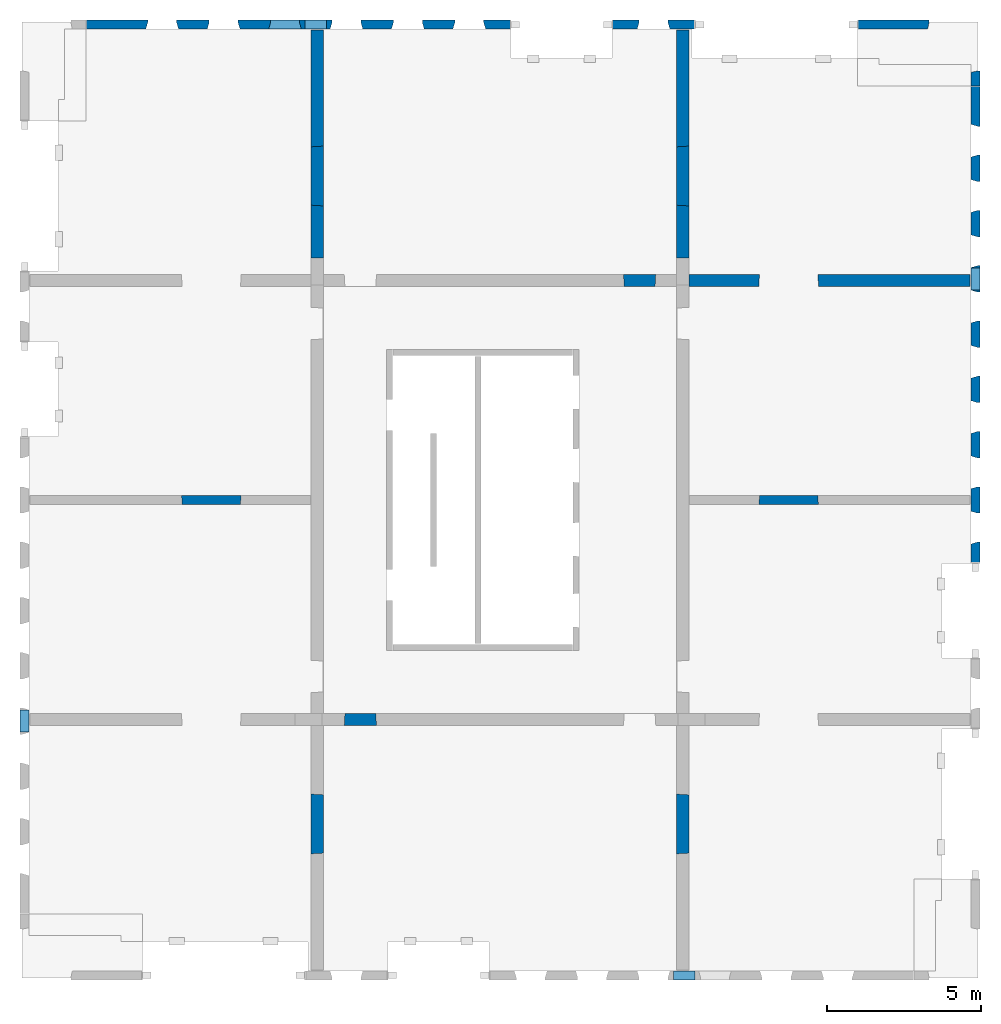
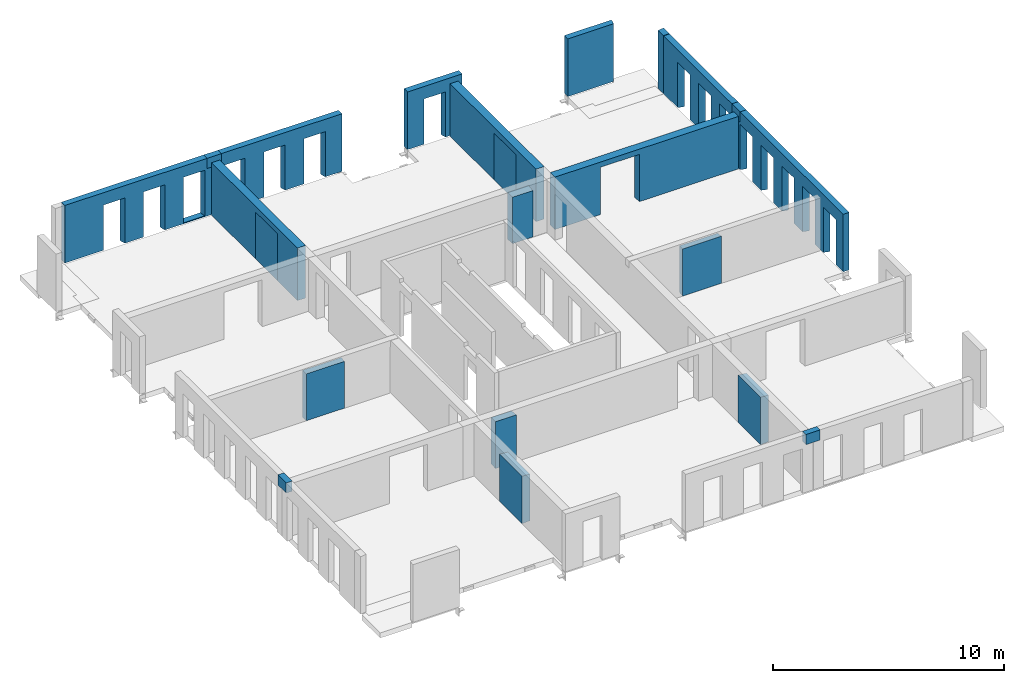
# One storey, part 4 of 4: 22 walls, 24 openings.
"""IFC2X3 building model written with IfcOpenShell, lengths in millimetres."""

import ifcopenshell
import ifcopenshell.guid

model = None  # the IFC model being written
_history = None  # IfcOwnerHistory: only IFC2X3 demands one
_inside = {}  # id of a spatial element -> (the spatial element, [elements in it])
_under = {}  # id of a project, library or spatial element -> (it, [spatial elements below it])
_declared = {}  # id of a project -> (the project, [libraries it declares])
_typed = {}  # id of a type object -> (the type object, [elements of that type])
_made_of = {}  # id of a material, layer set ... -> (it, [elements and type objects made of it])


def new_model(schema):
    """Start an empty IFC model of exactly this schema.

    Asked for "IFC4X3", IfcOpenShell would pick the latest addendum, in which some entities
    have other attributes; the version numbers below select the first issue.
    IFC2X3 requires an IfcOwnerHistory on every rooted entity: one is made here for all.
    """
    global model, _history
    if schema == "IFC4X3":
        model = ifcopenshell.file(schema_version=(4, 3, 0, 0))
    else:
        model = ifcopenshell.file(schema=schema)
    _inside.clear()
    _under.clear()
    _declared.clear()
    _typed.clear()
    _made_of.clear()
    _history = None
    if model.schema == "IFC2X3":
        org = make("IfcOrganization", Name="unknown")
        user = make(
            "IfcPersonAndOrganization",
            ThePerson=make("IfcPerson", FamilyName="unknown"),
            TheOrganization=org,
        )
        app = make(
            "IfcApplication",
            ApplicationDeveloper=org,
            Version="unknown",
            ApplicationFullName="unknown",
            ApplicationIdentifier="unknown",
        )
        _history = make(
            "IfcOwnerHistory",
            OwningUser=user,
            OwningApplication=app,
            ChangeAction="ADDED",
            CreationDate=0,
        )
    return model


def make(cls, **values):
    """One entity of the class cls with the attributes given. An attribute that is None is left unset."""
    return model.create_entity(
        cls, **{name: value for name, value in values.items() if value is not None}
    )


def entity(cls, *values):
    """Any entity or typed value of the class cls, its attributes in the order of the schema. None: left unset."""
    e = model.create_entity(cls)
    for i, value in enumerate(values):
        if value is not None:
            e[i] = value
    return e


def rooted(cls, **values):
    """An entity with a GlobalId (a new one), such as an element, a storey or a relation."""
    return make(cls, GlobalId=ifcopenshell.guid.new(), OwnerHistory=_history, **values)


def si_unit(unit_type, name, prefix=None):
    """IfcSIUnit, for example si_unit("LENGTHUNIT", "METRE", prefix="MILLI")."""
    return make("IfcSIUnit", UnitType=unit_type, Prefix=prefix, Name=name)


def converted_unit(unit_type, name, factor, base, dimensions=None, offset=None):
    """IfcConversionBasedUnit, such as the inch: factor (a typed value) times the base unit."""
    return make(
        "IfcConversionBasedUnit"
        if offset is None
        else "IfcConversionBasedUnitWithOffset",
        ConversionOffset=offset,
        Dimensions=None
        if dimensions is None
        else entity("IfcDimensionalExponents", *dimensions),
        UnitType=unit_type,
        Name=name,
        ConversionFactor=make(
            "IfcMeasureWithUnit", ValueComponent=factor, UnitComponent=base
        ),
    )


def derived_unit(unit_type, elements):
    """IfcDerivedUnit: a product of units, each with its exponent."""
    return make(
        "IfcDerivedUnit",
        Elements=[
            make("IfcDerivedUnitElement", Unit=unit, Exponent=power)
            for unit, power in elements
        ],
        UnitType=unit_type,
    )


def assignment(units):
    """IfcUnitAssignment: the units of a project."""
    return None if units is None else make("IfcUnitAssignment", Units=units)


def point(xyz):
    """IfcCartesianPoint."""
    return None if xyz is None else make("IfcCartesianPoint", Coordinates=xyz)


def direction(xyz):
    """IfcDirection."""
    return None if xyz is None else make("IfcDirection", DirectionRatios=xyz)


def frame(location, z_axis=None, x_axis=None):
    """IfcAxis2Placement3D, a coordinate frame: its origin and axes. An axis left out is left unset."""
    return make(
        "IfcAxis2Placement3D",
        Location=point(location),
        Axis=direction(z_axis),
        RefDirection=direction(x_axis),
    )


def frame_2d(location, x_axis=None):
    """IfcAxis2Placement2D, a coordinate frame in the plane: its origin and x axis."""
    return make(
        "IfcAxis2Placement2D", Location=point(location), RefDirection=direction(x_axis)
    )


def origin():
    """The frame at (0, 0, 0) with its axes left unset."""
    return frame((0.0, 0.0, 0.0))


def place(relative_to, where):
    """IfcLocalPlacement: puts the frame where relative to a parent placement (None: the world)."""
    return make(
        "IfcLocalPlacement", PlacementRelTo=relative_to, RelativePlacement=where
    )


def context(
    kind, dimensions, precision=None, world=None, true_north=None, identifier=None
):
    """IfcGeometricRepresentationContext, for example the 3D "Model" context."""
    return make(
        "IfcGeometricRepresentationContext",
        ContextIdentifier=identifier,
        ContextType=kind,
        CoordinateSpaceDimension=dimensions,
        Precision=precision,
        WorldCoordinateSystem=world,
        TrueNorth=true_north,
    )


def subcontext(parent, identifier, kind, view, scale=None):
    """IfcGeometricRepresentationSubContext, for example "Body" below "Model"."""
    return make(
        "IfcGeometricRepresentationSubContext",
        ContextIdentifier=identifier,
        ContextType=kind,
        ParentContext=parent,
        TargetScale=scale,
        TargetView=view,
    )


def project(units=None, contexts=None):
    """IfcProject with its units and contexts."""
    return rooted(
        "IfcProject",
        Name="project",
        RepresentationContexts=contexts,
        UnitsInContext=assignment(units),
    )


def spatial(cls, under=None, at=None, **own):
    """A site, building, storey or space (cls), placed at a placement, below another one or the project."""
    s = rooted(cls, ObjectPlacement=at, **own)
    if under is not None:
        _under.setdefault(under.id(), (under, []))[1].append(s)
    return s


def profile(cls, at=None, kind="AREA", **sizes):
    """A parametric profile (cls). Its sizes go by their IFC names, for example OverallWidth=200.0."""
    return make(cls, ProfileType=kind, Position=at, **sizes)


def rectangle(**sizes):
    """IfcRectangleProfileDef."""
    return profile("IfcRectangleProfileDef", **sizes)


def extrude(swept, where, along, depth):
    """IfcExtrudedAreaSolid: the profile swept, set in the frame where, extruded along a direction by depth."""
    return make(
        "IfcExtrudedAreaSolid",
        SweptArea=swept,
        Position=where,
        ExtrudedDirection=direction(along),
        Depth=depth,
    )


def faces_of(points, faces, orient=None, outer=None):
    """IfcFace entities. A face is a list of loops; a loop is a list of indices into points, from 0.

    orient and outer hold one flag for each loop. By default every Orientation is true, the
    first loop of a face is its IfcFaceOuterBound and the others are IfcFaceBound.
    """
    made = []
    for i, loops in enumerate(faces):
        bounds = []
        for j, loop in enumerate(loops):
            is_outer = j == 0 if outer is None else outer[i][j]
            bounds.append(
                make(
                    "IfcFaceOuterBound" if is_outer else "IfcFaceBound",
                    Bound=make("IfcPolyLoop", Polygon=[points[k] for k in loop]),
                    Orientation=True if orient is None else orient[i][j],
                )
            )
        made.append(make("IfcFace", Bounds=bounds))
    return made


def faceted_brep(points, faces, orient=None, outer=None, voids=None):
    """IfcFacetedBrep: a solid bounded by flat faces; with voids (closed shells), ...WithVoids."""
    shared = [point(p) for p in points]
    hull = make("IfcClosedShell", CfsFaces=faces_of(shared, faces, orient, outer))
    if voids is None:
        return make("IfcFacetedBrep", Outer=hull)
    return make(
        "IfcFacetedBrepWithVoids",
        Outer=hull,
        Voids=[
            make(cls, CfsFaces=faces_of(shared, fs, o, b)) for cls, fs, o, b in voids
        ],
    )


def shape(context_of_items, identifier, shape_type, items):
    """IfcShapeRepresentation: the items that make up one representation, for example the "Body"."""
    return make(
        "IfcShapeRepresentation",
        ContextOfItems=context_of_items,
        RepresentationIdentifier=identifier,
        RepresentationType=shape_type,
        Items=items,
    )


def material(Name=None, Category=None):
    """IfcMaterial."""
    return make("IfcMaterial", Name=Name, Category=Category)


def layer(
    of_material, thickness, ventilated=None, Name=None, Category=None, Priority=None
):
    """IfcMaterialLayer: one layer of a wall or slab, of a material (None: an air gap)."""
    return make(
        "IfcMaterialLayer",
        Material=of_material,
        LayerThickness=thickness,
        IsVentilated=ventilated,
        Name=Name,
        Category=Category,
        Priority=Priority,
    )


def layer_set(layers, Name=None):
    """IfcMaterialLayerSet."""
    return make("IfcMaterialLayerSet", MaterialLayers=layers, LayerSetName=Name)


def layer_usage(for_layer_set, set_direction, sense, offset, extent=None):
    """IfcMaterialLayerSetUsage: how a layer set lies in its element."""
    return make(
        "IfcMaterialLayerSetUsage",
        ForLayerSet=for_layer_set,
        LayerSetDirection=set_direction,
        DirectionSense=sense,
        OffsetFromReferenceLine=offset,
        ReferenceExtent=extent,
    )


def made_of(thing, what):
    """Note that an element or type object is made of a material, layer set ...; save() writes the relation."""
    if what is not None:
        _made_of.setdefault(what.id(), (what, []))[1].append(thing)
    return thing


def type_object(cls, material=None, **own):
    """A type object (cls), such as IfcWallType, which elements share."""
    return made_of(rooted(cls, **own), material)


def element(
    cls,
    number,
    at=None,
    inside=None,
    cuts=None,
    type_object=None,
    material=None,
    context=None,
    identifier="Body",
    shape_type=None,
    held_by="IfcProductDefinitionShape",
    body=None,
    shapes=None,
    **own,
):
    """One element of the class cls, such as IfcWall. Its Tag is "e" and its number.

    at: its placement. inside: the storey or other place that contains it. cuts: it is an
    opening in that element (IfcRelVoidsElement). A single representation is given by context,
    identifier, shape_type and body (its items); several are given by shapes. held_by: the class
    of the entity that holds the representations. save() writes the other relations.
    """
    e = rooted(cls, Tag="e%d" % number, ObjectPlacement=at, **own)
    if body is not None:
        shapes = [shape(context, identifier, shape_type, body)]
    if shapes is not None:
        e.Representation = make(held_by, Representations=shapes)
    if inside is not None:
        _inside.setdefault(inside.id(), (inside, []))[1].append(e)
    if cuts is not None:
        rooted(
            "IfcRelVoidsElement", RelatingBuildingElement=cuts, RelatedOpeningElement=e
        )
    if type_object is not None:
        _typed.setdefault(type_object.id(), (type_object, []))[1].append(e)
    return made_of(e, material)


def aggregate(whole, parts):
    """IfcRelAggregates: a whole, such as a stair, and the parts it consists of."""
    return rooted("IfcRelAggregates", RelatingObject=whole, RelatedObjects=parts)


def save(model, path):
    """Write the relations noted so far, then the file.

    IfcRelAggregates (storeys below a building ...), IfcRelContainedInSpatialStructure (elements
    in a storey), IfcRelDefinesByType, IfcRelAssociatesMaterial and IfcRelDeclares: one each for
    every whole, place, type object, material and project.
    """
    for whole, parts in _under.values():
        aggregate(whole, parts)
    for where, things in _inside.values():
        rooted(
            "IfcRelContainedInSpatialStructure",
            RelatedElements=things,
            RelatingStructure=where,
        )
    for kind, things in _typed.values():
        rooted("IfcRelDefinesByType", RelatedObjects=things, RelatingType=kind)
    for what, things in _made_of.values():
        rooted("IfcRelAssociatesMaterial", RelatedObjects=things, RelatingMaterial=what)
    for by, libraries in _declared.values():
        rooted("IfcRelDeclares", RelatingContext=by, RelatedDefinitions=libraries)
    model.write(path)


model = new_model("IFC2X3")

# Units and contexts
model_context = context("Model", 3, precision=0.01, world=origin(), true_north=direction((6.12303176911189e-17, 1.0)))
body_context = subcontext(model_context, "Body", "Model", "MODEL_VIEW")
ifc_project = project(units=[si_unit("LENGTHUNIT", "METRE", prefix="MILLI"), si_unit("AREAUNIT", "SQUARE_METRE"), si_unit("VOLUMEUNIT", "CUBIC_METRE"), converted_unit("PLANEANGLEUNIT", "DEGREE", entity("IfcRatioMeasure", 0.0174532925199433), si_unit("PLANEANGLEUNIT", "RADIAN"), dimensions=[0, 0, 0, 0, 0, 0, 0]), si_unit("MASSUNIT", "GRAM", prefix="KILO"), derived_unit("MASSDENSITYUNIT", [(si_unit("MASSUNIT", "GRAM", prefix="KILO"), 1), (si_unit("LENGTHUNIT", "METRE"), -3)]), si_unit("TIMEUNIT", "SECOND"), si_unit("FREQUENCYUNIT", "HERTZ"), si_unit("THERMODYNAMICTEMPERATUREUNIT", "DEGREE_CELSIUS"), derived_unit("THERMALTRANSMITTANCEUNIT", [(si_unit("MASSUNIT", "GRAM", prefix="KILO"), 1), (si_unit("THERMODYNAMICTEMPERATUREUNIT", "KELVIN"), -1), (si_unit("TIMEUNIT", "SECOND"), -3)]), derived_unit("VOLUMETRICFLOWRATEUNIT", [(si_unit("LENGTHUNIT", "METRE"), 3), (si_unit("TIMEUNIT", "SECOND"), -1)]), si_unit("ELECTRICCURRENTUNIT", "AMPERE"), si_unit("ELECTRICVOLTAGEUNIT", "VOLT"), si_unit("POWERUNIT", "WATT"), si_unit("FORCEUNIT", "NEWTON", prefix="KILO"), si_unit("ILLUMINANCEUNIT", "LUX"), si_unit("LUMINOUSFLUXUNIT", "LUMEN"), si_unit("LUMINOUSINTENSITYUNIT", "CANDELA"), derived_unit("USERDEFINED", [(si_unit("MASSUNIT", "GRAM", prefix="KILO"), -1), (si_unit("LENGTHUNIT", "METRE"), -2), (si_unit("TIMEUNIT", "SECOND"), 3), (si_unit("LUMINOUSFLUXUNIT", "LUMEN"), 1)]), derived_unit("LINEARVELOCITYUNIT", [(si_unit("LENGTHUNIT", "METRE"), 1), (si_unit("TIMEUNIT", "SECOND"), -1)]), si_unit("PRESSUREUNIT", "PASCAL"), derived_unit("USERDEFINED", [(si_unit("LENGTHUNIT", "METRE"), -2), (si_unit("MASSUNIT", "GRAM", prefix="KILO"), 1), (si_unit("TIMEUNIT", "SECOND"), -2)])], contexts=[model_context])

# Site, building, storey
site_placement = place(None, origin())
site = spatial("IfcSite", under=ifc_project, at=site_placement, Name="Default", CompositionType="ELEMENT")
building_placement = place(site_placement, origin())
building = spatial("IfcBuilding", under=site, at=building_placement, Name="niet gebruiken", CompositionType="ELEMENT")
storey_placement = place(building_placement, frame((0.0, 0.0, 66960.0)))
storey = spatial("IfcBuildingStorey", under=building, at=storey_placement, Name="21 eenentwintigste verdieping", CompositionType="ELEMENT", Elevation=66960.0000000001)

# Walls
ifc_material_1 = material(Name="NLRS_f2_beton ihwg")
ifc_layer_1 = layer(ifc_material_1, 300.0)
ifc_layer_set_1 = layer_set([ifc_layer_1], Name="Basic Wall:NLRS_21.21_WA_beton ihwg d=300_gen")
ifc_layer_usage_1 = layer_usage(ifc_layer_set_1, "AXIS2", "NEGATIVE", 150.0)
wall_type_1 = type_object("IfcWallType", Name="Basic Wall:NLRS_21.21_WA_beton ihwg d=300_gen", PredefinedType="STANDARD", material=ifc_layer_set_1)
wall_1_placement = place(storey_placement, frame((148105.0, 2020.0, 2455.0), z_axis=(0.0, 0.0, 1.0), x_axis=(-1.0, 0.0, 0.0)))
element("IfcWallStandardCase", 1, at=wall_1_placement, inside=storey, type_object=wall_type_1, material=ifc_layer_usage_1, Name="Basic Wall:NLRS_21.21_WA_beton ihwg d=300_gen", ObjectType="Basic Wall:NLRS_21.21_WA_beton ihwg d=300_gen", context=body_context, shape_type="SweptSolid", body=[
    extrude(rectangle(XDim=710.000000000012, YDim=300.0, at=frame_2d((355.000000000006, -1.4210854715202e-14), x_axis=(-1.0, 0.0))), origin(), (0.0, 0.0, 1.0), 535.0),
])
ifc_layer_usage_2 = layer_usage(ifc_layer_set_1, "AXIS2", "NEGATIVE", 150.0)
wall_2_placement = place(storey_placement, frame((135395.0, 32980.0, 2455.0)))
element("IfcWallStandardCase", 2, at=wall_2_placement, inside=storey, type_object=wall_type_1, material=ifc_layer_usage_2, Name="Basic Wall:NLRS_21.21_WA_beton ihwg d=300_gen", ObjectType="Basic Wall:NLRS_21.21_WA_beton ihwg d=300_gen", context=body_context, shape_type="SweptSolid", body=[
    extrude(rectangle(XDim=710.000000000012, YDim=300.000000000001, at=frame_2d((355.000000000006, 0.0), x_axis=(-1.0, 0.0))), origin(), (0.0, 0.0, 1.0), 535.0),
])
ifc_layer_usage_3 = layer_usage(ifc_layer_set_1, "AXIS2", "NEGATIVE", 150.0)
wall_3_placement = place(storey_placement, frame((157230.0, 25055.0, 2455.0), z_axis=(0.0, 0.0, 1.0), x_axis=(0.0, -1.0, 0.0)))
element("IfcWallStandardCase", 3, at=wall_3_placement, inside=storey, type_object=wall_type_1, material=ifc_layer_usage_3, Name="Basic Wall:NLRS_21.21_WA_beton ihwg d=300_gen", ObjectType="Basic Wall:NLRS_21.21_WA_beton ihwg d=300_gen", context=body_context, shape_type="SweptSolid", body=[
    extrude(rectangle(XDim=710.000000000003, YDim=300.000000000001, at=frame_2d((355.000000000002, 9.9475983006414e-13), x_axis=(-1.0, 0.0))), origin(), (0.0, 0.0, 1.0), 535.0),
])
ifc_layer_usage_4 = layer_usage(ifc_layer_set_1, "AXIS2", "NEGATIVE", 150.0)
wall_4_placement = place(storey_placement, frame((126270.0, 9945.0, 2455.0), z_axis=(0.0, 0.0, 1.0), x_axis=(0.0, 1.0, 0.0)))
element("IfcWallStandardCase", 4, at=wall_4_placement, inside=storey, type_object=wall_type_1, material=ifc_layer_usage_4, Name="Basic Wall:NLRS_21.21_WA_beton ihwg d=300_gen", ObjectType="Basic Wall:NLRS_21.21_WA_beton ihwg d=300_gen", context=body_context, shape_type="SweptSolid", body=[
    extrude(rectangle(XDim=710.000000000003, YDim=300.000000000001, at=frame_2d((355.000000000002, 0.0), x_axis=(-1.0, 0.0))), origin(), (0.0, 0.0, 1.0), 535.0),
])

# Wall, opening
ifc_material_2 = material(Name="NLRS_f2_beton prefab")
ifc_layer_2 = layer(ifc_material_2, 400.0)
ifc_layer_set_2 = layer_set([ifc_layer_2], Name="Basic Wall:NLRS_22.21_WA_beton prefab d=400_gen")
ifc_layer_usage_5 = layer_usage(ifc_layer_set_2, "AXIS2", "NEGATIVE", 200.0)
wall_type_2 = type_object("IfcWallType", Name="Basic Wall:NLRS_22.21_WA_beton prefab d=400_gen", PredefinedType="STANDARD", material=ifc_layer_set_2)
wall_5_placement = place(storey_placement, frame((157060.0, 24650.0, -70.0), z_axis=(0.0, 0.0, 1.0), x_axis=(-1.0, 0.0, 0.0)))
wall_5 = element("IfcWallStandardCase", 5, at=wall_5_placement, inside=storey, type_object=wall_type_2, material=ifc_layer_usage_5, Name="Basic Wall:NLRS_22.21_WA_beton prefab d=400_gen", ObjectType="Basic Wall:NLRS_22.21_WA_beton prefab d=400_gen", context=body_context, shape_type="SweptSolid", body=[
    extrude(rectangle(XDim=9160.00000000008, YDim=399.999999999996, at=frame_2d((4580.00000000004, -9.2370555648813e-13), x_axis=(-1.0, 0.0))), origin(), (0.0, 0.0, 1.0), 2770.00000000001),
])
opening_1_placement = place(wall_5_placement, frame((6884.0, 200.0, 0.0)))
element("IfcOpeningElement", 6, at=opening_1_placement, cuts=wall_5, Name="Basic Wall:NLRS_22.21_WA_beton prefab d=400_gen", ObjectType="Opening", context=body_context, shape_type="Brep", body=[
    faceted_brep([(-24.0, -400.0, 2470.0), (-1924.0, -400.0, 2470.0), (-1924.0, -400.0, 0.0), (-24.0, -400.0, 0.0), (0.0, 0.0, 2494.0), (0.0, 0.0, 0.0), (-1948.0, 0.0, 0.0), (-1948.0, 0.0, 2494.0)], [[[0, 1, 2, 3]], [[4, 5, 6, 7]], [[4, 7, 1, 0]], [[7, 6, 2, 1]], [[6, 5, 3, 2]], [[5, 4, 0, 3]]]),
])

ifc_layer_usage_6 = layer_usage(ifc_layer_set_2, "AXIS2", "NEGATIVE", 200.0)
wall_6_placement = place(storey_placement, frame((135800.0, 25380.0, -70.0), z_axis=(0.0, 0.0, 1.0), x_axis=(0.0, 1.0, 0.0)))
wall_6 = element("IfcWallStandardCase", 7, at=wall_6_placement, inside=storey, type_object=wall_type_2, material=ifc_layer_usage_6, Name="Basic Wall:NLRS_22.21_WA_beton prefab d=400_gen", ObjectType="Basic Wall:NLRS_22.21_WA_beton prefab d=400_gen", context=body_context, shape_type="SweptSolid", body=[
    extrude(rectangle(XDim=7430.00000000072, YDim=400.000000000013, at=frame_2d((3715.00000000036, -5.62749846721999e-12), x_axis=(-1.0, 0.0))), origin(), (0.0, 0.0, 1.0), 2770.00000000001),
])
opening_2_placement = place(wall_6_placement, frame((1696.0, 200.0, 0.0)))
element("IfcOpeningElement", 8, at=opening_2_placement, cuts=wall_6, Name="Basic Wall:NLRS_22.21_WA_beton prefab d=400_gen", ObjectType="Opening", context=body_context, shape_type="Brep", body=[
    faceted_brep([(1924.0, 0.0, 2470.0), (1924.0, 0.0, 0.0), (24.0, 0.0, 0.0), (24.0, 0.0, 2470.0), (1948.0, -400.0, 2494.0), (0.0, -400.0, 2494.0), (0.0, -400.0, 0.0), (1948.0, -400.0, 0.0)], [[[0, 1, 2, 3]], [[4, 5, 6, 7]], [[4, 0, 3, 5]], [[5, 3, 2, 6]], [[6, 2, 1, 7]], [[7, 1, 0, 4]]]),
])

ifc_layer_usage_7 = layer_usage(ifc_layer_set_2, "AXIS2", "NEGATIVE", 200.0)
wall_7_placement = place(storey_placement, frame((147700.0, 25380.0, -70.0), z_axis=(0.0, 0.0, 1.0), x_axis=(0.0, 1.0, 0.0)))
wall_7 = element("IfcWallStandardCase", 9, at=wall_7_placement, inside=storey, type_object=wall_type_2, material=ifc_layer_usage_7, Name="Basic Wall:NLRS_22.21_WA_beton prefab d=400_gen", ObjectType="Basic Wall:NLRS_22.21_WA_beton prefab d=400_gen", context=body_context, shape_type="SweptSolid", body=[
    extrude(rectangle(XDim=7429.99999999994, YDim=400.000000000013, at=frame_2d((3714.99999999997, 7.14805992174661e-12), x_axis=(-1.0, 0.0))), origin(), (0.0, 0.0, 1.0), 2770.00000000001),
])
opening_3_placement = place(wall_7_placement, frame((1696.0, 200.0, 0.0)))
element("IfcOpeningElement", 10, at=opening_3_placement, cuts=wall_7, Name="Basic Wall:NLRS_22.21_WA_beton prefab d=400_gen", ObjectType="Opening", context=body_context, shape_type="Brep", body=[
    faceted_brep([(1924.0, 0.0, 2470.0), (1924.0, 0.0, 0.0), (24.0, 0.0, 0.0), (24.0, 0.0, 2470.0), (1948.0, -400.0, 2494.0), (0.0, -400.0, 2494.0), (0.0, -400.0, 0.0), (1948.0, -400.0, 0.0)], [[[0, 1, 2, 3]], [[4, 5, 6, 7]], [[4, 0, 3, 5]], [[5, 3, 2, 6]], [[6, 2, 1, 7]], [[7, 1, 0, 4]]]),
])

ifc_layer_3 = layer(ifc_material_2, 300.0)
ifc_layer_set_3 = layer_set([ifc_layer_3], Name="Basic Wall:NLRS_21.21_WA_beton prefab d=300/320_gen")
ifc_layer_usage_8 = layer_usage(ifc_layer_set_3, "AXIS2", "NEGATIVE", 150.0)
wall_type_3 = type_object("IfcWallType", Name="Basic Wall:NLRS_21.21_WA_beton prefab d=300/320_gen", PredefinedType="STANDARD", material=ifc_layer_set_3)
wall_8_placement = place(storey_placement, frame((145390.0, 32980.0, -50.0)))
wall_8 = element("IfcWallStandardCase", 11, at=wall_8_placement, inside=storey, type_object=wall_type_3, material=ifc_layer_usage_8, Name="Basic Wall:NLRS_21.21_WA_beton prefab d=300/320_gen", ObjectType="Basic Wall:NLRS_21.21_WA_beton prefab d=300/320_gen", context=body_context, shape_type="SweptSolid", body=[
    extrude(rectangle(XDim=2720.00000000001, YDim=300.000000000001, at=frame_2d((1360.0, -4.54747350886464e-13), x_axis=(-1.0, 0.0))), origin(), (0.0, 0.0, 1.0), 3040.0),
])
opening_4_placement = place(wall_8_placement, frame((825.0, -150.0, -20.0)))
element("IfcOpeningElement", 12, at=opening_4_placement, cuts=wall_8, Name="Basic Wall:NLRS_21.21_WA_beton prefab d=300/320_gen", ObjectType="Opening", context=body_context, shape_type="Brep", body=[
    faceted_brep([(0.0, 0.0, 2405.0), (0.0, 0.0, 0.0), (1070.0, 0.0, 0.0), (1070.0, 0.0, 2405.0), (1005.0, 219.0, 2370.0), (65.0, 219.0, 2370.0), (1005.0, 219.0, 0.0), (65.0, 219.0, 0.0), (65.0, 300.0, 0.0), (1005.0, 300.0, 0.0), (65.0, 300.0, 2370.0), (1005.0, 300.0, 2370.0)], [[[0, 1, 2, 3]], [[3, 4, 5, 0]], [[2, 6, 4, 3]], [[1, 7, 8, 9, 6, 2]], [[0, 5, 7, 1]], [[10, 11, 9, 8]], [[10, 5, 4, 11]], [[11, 4, 6, 9]], [[8, 7, 5, 10]]]),
])

# Wall, openings
ifc_layer_usage_9 = layer_usage(ifc_layer_set_3, "AXIS2", "NEGATIVE", 150.0)
wall_9_placement = place(storey_placement, frame((128290.0, 32980.0, -50.0)))
wall_9 = element("IfcWallStandardCase", 13, at=wall_9_placement, inside=storey, type_object=wall_type_3, material=ifc_layer_usage_9, Name="Basic Wall:NLRS_21.21_WA_beton prefab d=300/320_gen", ObjectType="Basic Wall:NLRS_21.21_WA_beton prefab d=300/320_gen", context=body_context, shape_type="SweptSolid", body=[
    extrude(rectangle(XDim=7449.9999999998, YDim=300.000000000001, at=frame_2d((3724.9999999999, 0.0), x_axis=(-1.0, 0.0))), origin(), (0.0, 0.0, 1.0), 3040.0),
])
opening_5_placement = place(wall_9_placement, frame((3925.0, -150.0, -20.0)))
element("IfcOpeningElement", 14, at=opening_5_placement, cuts=wall_9, Name="Basic Wall:NLRS_21.21_WA_beton prefab d=300/320_gen", ObjectType="Opening", context=body_context, shape_type="Brep", body=[
    faceted_brep([(1070.0, 0.0, 2405.0), (0.0, 0.0, 2405.0), (0.0, 0.0, 0.0), (1070.0, 0.0, 0.0), (1005.0, 219.0, 2370.0), (65.0, 219.0, 2370.0), (65.0, 219.0, 0.0), (65.0, 300.0, 0.0), (1005.0, 300.0, 0.0), (1005.0, 219.0, 0.0), (1005.0, 300.0, 2370.0), (65.0, 300.0, 2370.0)], [[[0, 1, 2, 3]], [[1, 0, 4, 5]], [[2, 1, 5, 6]], [[3, 2, 6, 7, 8, 9]], [[0, 3, 9, 4]], [[10, 8, 7, 11]], [[10, 11, 5, 4]], [[11, 7, 6, 5]], [[8, 10, 4, 9]]]),
])
opening_6_placement = place(wall_9_placement, frame((1925.0, -150.0, -20.0)))
element("IfcOpeningElement", 15, at=opening_6_placement, cuts=wall_9, Name="Basic Wall:NLRS_21.21_WA_beton prefab d=300/320_gen", ObjectType="Opening", context=body_context, shape_type="Brep", body=[
    faceted_brep([(1070.0, 0.0, 2405.0), (0.0, 0.0, 2405.0), (0.0, 0.0, 0.0), (1070.0, 0.0, 0.0), (1005.0, 219.0, 2370.0), (65.0, 219.0, 2370.0), (65.0, 219.0, 0.0), (65.0, 300.0, 0.0), (1005.0, 300.0, 0.0), (1005.0, 219.0, 0.0), (1005.0, 300.0, 2370.0), (65.0, 300.0, 2370.0)], [[[0, 1, 2, 3]], [[1, 0, 4, 5]], [[2, 1, 5, 6]], [[3, 2, 6, 7, 8, 9]], [[0, 3, 9, 4]], [[10, 8, 7, 11]], [[10, 11, 5, 4]], [[11, 7, 6, 5]], [[8, 10, 4, 9]]]),
])
opening_7_placement = place(wall_9_placement, frame((5925.0, -150.0, 50.0)))
element("IfcOpeningElement", 16, at=opening_7_placement, cuts=wall_9, Name="Basic Wall:NLRS_21.21_WA_beton prefab d=300/320_gen", ObjectType="Opening", context=body_context, shape_type="Brep", body=[
    faceted_brep([(1070.0, 0.0, 2405.0), (0.0, 0.0, 2405.0), (0.0, 0.0, 0.0), (1070.0, 0.0, 0.0), (1005.0, 219.0, 2370.0), (65.0, 219.0, 2370.0), (65.0, 219.0, 0.0), (65.0, 300.0, 0.0), (1005.0, 300.0, 0.0), (1005.0, 219.0, 0.0), (1005.0, 300.0, 2370.0), (65.0, 300.0, 2370.0)], [[[0, 1, 2, 3]], [[1, 0, 4, 5]], [[2, 1, 5, 6]], [[3, 2, 6, 7, 8, 9]], [[0, 3, 9, 4]], [[10, 8, 7, 11]], [[10, 11, 5, 4]], [[11, 7, 6, 5]], [[8, 10, 4, 9]]]),
])
opening_8_placement = place(wall_9_placement, origin())
element("IfcOpeningElement", 17, at=opening_8_placement, cuts=wall_9, Name="Basic Wall:NLRS_21.21_WA_beton prefab d=300/320_gen", ObjectType="Opening", context=body_context, shape_type="SweptSolid", body=[
    extrude(rectangle(XDim=534.999999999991, YDim=344.999999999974, at=frame_2d((-4.32009983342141e-12, 0.0), x_axis=(1.0, 0.0))), frame((7277.49999999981, 150.0, 2772.50000000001), z_axis=(0.0, -1.0, 0.0), x_axis=(0.0, 0.0, 1.0)), (0.0, 0.0, 1.0), 300.0),
])

ifc_layer_usage_10 = layer_usage(ifc_layer_set_3, "AXIS2", "NEGATIVE", 150.0)
wall_10_placement = place(storey_placement, frame((157230.0, 30960.0, -50.0), z_axis=(0.0, 0.0, 1.0), x_axis=(0.0, -1.0, 0.0)))
wall_10 = element("IfcWallStandardCase", 18, at=wall_10_placement, inside=storey, type_object=wall_type_3, material=ifc_layer_usage_10, Name="Basic Wall:NLRS_21.21_WA_beton prefab d=300/320_gen", ObjectType="Basic Wall:NLRS_21.21_WA_beton prefab d=300/320_gen", context=body_context, shape_type="SweptSolid", body=[
    extrude(rectangle(XDim=6249.99999999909, YDim=300.000000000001, at=frame_2d((3124.99999999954, -8.61177795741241e-12), x_axis=(-1.0, 0.0))), origin(), (0.0, 0.0, 1.0), 3039.99999999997),
])
opening_9_placement = place(wall_10_placement, frame((2295.0, -150.0, -20.0)))
element("IfcOpeningElement", 19, at=opening_9_placement, cuts=wall_10, Name="Basic Wall:NLRS_21.21_WA_beton prefab d=300/320_gen", ObjectType="Opening", context=body_context, shape_type="Brep", body=[
    faceted_brep([(-1070.0, 0.0, 2405.0), (-1070.0, 0.0, 0.0), (0.0, 0.0, 0.0), (0.0, 0.0, 2405.0), (-65.0, 219.0, 2370.0), (-1005.0, 219.0, 2370.0), (-65.0, 219.0, 0.0), (-1005.0, 219.0, 0.0), (-1005.0, 300.0, 0.0), (-65.0, 300.0, 0.0), (-1005.0, 300.0, 2370.0), (-65.0, 300.0, 2370.0)], [[[0, 1, 2, 3]], [[3, 4, 5, 0]], [[2, 6, 4, 3]], [[1, 7, 8, 9, 6, 2]], [[0, 5, 7, 1]], [[10, 11, 9, 8]], [[10, 5, 4, 11]], [[11, 4, 6, 9]], [[8, 7, 5, 10]]]),
])
opening_10_placement = place(wall_10_placement, frame((4095.0, -150.0, -20.0)))
element("IfcOpeningElement", 20, at=opening_10_placement, cuts=wall_10, Name="Basic Wall:NLRS_21.21_WA_beton prefab d=300/320_gen", ObjectType="Opening", context=body_context, shape_type="Brep", body=[
    faceted_brep([(-1070.0, 0.0, 2405.0), (-1070.0, 0.0, 0.0), (0.0, 0.0, 0.0), (0.0, 0.0, 2405.0), (-65.0, 219.0, 2370.0), (-1005.0, 219.0, 2370.0), (-65.0, 219.0, 0.0), (-1005.0, 219.0, 0.0), (-1005.0, 300.0, 0.0), (-65.0, 300.0, 0.0), (-1005.0, 300.0, 2370.0), (-65.0, 300.0, 2370.0)], [[[0, 1, 2, 3]], [[3, 4, 5, 0]], [[2, 6, 4, 3]], [[1, 7, 8, 9, 6, 2]], [[0, 5, 7, 1]], [[10, 11, 9, 8]], [[10, 5, 4, 11]], [[11, 4, 6, 9]], [[8, 7, 5, 10]]]),
])
opening_11_placement = place(wall_10_placement, frame((5895.0, -150.0, -20.0)))
element("IfcOpeningElement", 21, at=opening_11_placement, cuts=wall_10, Name="Basic Wall:NLRS_21.21_WA_beton prefab d=300/320_gen", ObjectType="Opening", context=body_context, shape_type="Brep", body=[
    faceted_brep([(-1070.0, 0.0, 2405.0), (-1070.0, 0.0, 0.0), (0.0, 0.0, 0.0), (0.0, 0.0, 2405.0), (-65.0, 219.0, 2370.0), (-1005.0, 219.0, 2370.0), (-65.0, 219.0, 0.0), (-1005.0, 219.0, 0.0), (-1005.0, 300.0, 0.0), (-65.0, 300.0, 0.0), (-1005.0, 300.0, 2370.0), (-65.0, 300.0, 2370.0)], [[[0, 1, 2, 3]], [[3, 4, 5, 0]], [[2, 6, 4, 3]], [[1, 7, 8, 9, 6, 2]], [[0, 5, 7, 1]], [[10, 11, 9, 8]], [[10, 5, 4, 11]], [[11, 4, 6, 9]], [[8, 7, 5, 10]]]),
])
opening_12_placement = place(wall_10_placement, origin())
element("IfcOpeningElement", 22, at=opening_12_placement, cuts=wall_10, Name="Basic Wall:NLRS_21.21_WA_beton prefab d=300/320_gen", ObjectType="Opening", context=body_context, shape_type="SweptSolid", body=[
    extrude(rectangle(XDim=534.99999999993, YDim=344.999999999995, at=frame_2d((0.0, -2.17426077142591e-12), x_axis=(1.0, 0.0))), frame((6077.49999999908, 150.0, 2772.50000000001), z_axis=(0.0, -1.0, 0.0), x_axis=(0.0, 0.0, 1.0)), (0.0, 0.0, 1.0), 300.0),
])

# Wall, opening
ifc_layer_usage_11 = layer_usage(ifc_layer_set_3, "AXIS2", "NEGATIVE", 150.0)
wall_11_placement = place(storey_placement, frame((153390.0, 32980.0, -50.0)))
wall_11 = element("IfcWallStandardCase", 23, at=wall_11_placement, inside=storey, type_object=wall_type_3, material=ifc_layer_usage_11, Name="Basic Wall:NLRS_21.21_WA_beton prefab d=300/320_gen", ObjectType="Basic Wall:NLRS_21.21_WA_beton prefab d=300/320_gen", context=body_context, shape_type="SweptSolid", body=[
    extrude(rectangle(XDim=2330.00000000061, YDim=300.000000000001, at=frame_2d((1165.00000000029, -1.29318777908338e-12), x_axis=(-1.0, 0.0))), origin(), (0.0, 0.0, 1.0), 3040.0),
])
opening_13_placement = place(wall_11_placement, frame((2265.0, -250.0, 0.0)))
element("IfcOpeningElement", 24, at=opening_13_placement, cuts=wall_11, Name="Basic Wall:NLRS_21.21_WA_beton prefab d=300/320_gen", ObjectType="Opening", context=body_context, shape_type="Brep", body=[
    faceted_brep([(65.0, 0.0, 3040.0), (65.0, 319.0, 3040.0), (0.0, 0.0, 3040.0), (65.0, 0.0, 0.0), (0.0, 0.0, 0.0), (65.0, 319.0, 0.0)], [[[0, 1, 2]], [[3, 4, 5]], [[2, 4, 3, 0]], [[0, 3, 5, 1]], [[1, 5, 4, 2]]]),
])

ifc_layer_usage_12 = layer_usage(ifc_layer_set_3, "AXIS2", "NEGATIVE", 150.0)
wall_12_placement = place(storey_placement, frame((157230.0, 31470.0, -50.0), z_axis=(0.0, 0.0, 1.0), x_axis=(0.0, -1.0, 0.0)))
wall_12 = element("IfcWallStandardCase", 25, at=wall_12_placement, inside=storey, type_object=wall_type_3, material=ifc_layer_usage_12, Name="Basic Wall:NLRS_21.21_WA_beton prefab d=300/320_gen", ObjectType="Basic Wall:NLRS_21.21_WA_beton prefab d=300/320_gen", context=body_context, shape_type="SweptSolid", body=[
    extrude(rectangle(XDim=489.999999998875, YDim=300.000000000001, at=frame_2d((244.999999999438, -7.8159700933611e-13), x_axis=(-1.0, 0.0))), origin(), (0.0, 0.0, 1.0), 3040.0),
])
opening_14_placement = place(wall_12_placement, frame((65.0, -250.0, 0.0)))
element("IfcOpeningElement", 26, at=opening_14_placement, cuts=wall_12, Name="Basic Wall:NLRS_21.21_WA_beton prefab d=300/320_gen", ObjectType="Opening", context=body_context, shape_type="Brep", body=[
    faceted_brep([(-65.0, 0.0, 3040.0), (0.0, 0.0, 3040.0), (-65.0, 319.0, 3040.0), (-65.0, 0.0, 0.0), (-65.0, 319.0, 0.0), (0.0, 0.0, 0.0)], [[[0, 1, 2]], [[3, 4, 5]], [[1, 0, 3, 5]], [[0, 2, 4, 3]], [[2, 1, 5, 4]]]),
])

# Wall, openings
ifc_layer_usage_13 = layer_usage(ifc_layer_set_3, "AXIS2", "NEGATIVE", 150.0)
wall_13_placement = place(storey_placement, frame((157230.0, 24690.0, -50.0), z_axis=(0.0, 0.0, 1.0), x_axis=(0.0, -1.0, 0.0)))
wall_13 = element("IfcWallStandardCase", 27, at=wall_13_placement, inside=storey, type_object=wall_type_3, material=ifc_layer_usage_13, Name="Basic Wall:NLRS_21.21_WA_beton prefab d=300/320_gen", ObjectType="Basic Wall:NLRS_21.21_WA_beton prefab d=300/320_gen", context=body_context, shape_type="SweptSolid", body=[
    extrude(rectangle(XDim=9250.00000000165, YDim=300.000000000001, at=frame_2d((4625.00000000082, -4.43378667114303e-12), x_axis=(-1.0, 0.0))), origin(), (0.0, 0.0, 1.0), 3040.0),
])
opening_15_placement = place(wall_13_placement, frame((8625.0, -150.0, -20.0)))
element("IfcOpeningElement", 28, at=opening_15_placement, cuts=wall_13, Name="Basic Wall:NLRS_21.21_WA_beton prefab d=300/320_gen", ObjectType="Opening", context=body_context, shape_type="Brep", body=[
    faceted_brep([(-1070.0, 0.0, 2405.0), (-1070.0, 0.0, 0.0), (0.0, 0.0, 0.0), (0.0, 0.0, 2405.0), (-65.0, 219.0, 2370.0), (-1005.0, 219.0, 2370.0), (-65.0, 219.0, 0.0), (-1005.0, 219.0, 0.0), (-1005.0, 300.0, 0.0), (-65.0, 300.0, 0.0), (-1005.0, 300.0, 2370.0), (-65.0, 300.0, 2370.0)], [[[0, 1, 2, 3]], [[3, 4, 5, 0]], [[2, 6, 4, 3]], [[1, 7, 8, 9, 6, 2]], [[0, 5, 7, 1]], [[10, 11, 9, 8]], [[10, 5, 4, 11]], [[11, 4, 6, 9]], [[8, 7, 5, 10]]]),
])
opening_16_placement = place(wall_13_placement, frame((5025.0, -150.0, -20.0)))
element("IfcOpeningElement", 29, at=opening_16_placement, cuts=wall_13, Name="Basic Wall:NLRS_21.21_WA_beton prefab d=300/320_gen", ObjectType="Opening", context=body_context, shape_type="Brep", body=[
    faceted_brep([(-1070.0, 0.0, 2405.0), (-1070.0, 0.0, 0.0), (0.0, 0.0, 0.0), (0.0, 0.0, 2405.0), (-65.0, 219.0, 2370.0), (-1005.0, 219.0, 2370.0), (-65.0, 219.0, 0.0), (-1005.0, 219.0, 0.0), (-1005.0, 300.0, 0.0), (-65.0, 300.0, 0.0), (-1005.0, 300.0, 2370.0), (-65.0, 300.0, 2370.0)], [[[0, 1, 2, 3]], [[3, 4, 5, 0]], [[2, 6, 4, 3]], [[1, 7, 8, 9, 6, 2]], [[0, 5, 7, 1]], [[10, 11, 9, 8]], [[10, 5, 4, 11]], [[11, 4, 6, 9]], [[8, 7, 5, 10]]]),
])
opening_17_placement = place(wall_13_placement, frame((3225.0, -150.0, -20.0)))
element("IfcOpeningElement", 30, at=opening_17_placement, cuts=wall_13, Name="Basic Wall:NLRS_21.21_WA_beton prefab d=300/320_gen", ObjectType="Opening", context=body_context, shape_type="Brep", body=[
    faceted_brep([(-1070.0, 0.0, 2405.0), (-1070.0, 0.0, 0.0), (0.0, 0.0, 0.0), (0.0, 0.0, 2405.0), (-65.0, 219.0, 2370.0), (-1005.0, 219.0, 2370.0), (-65.0, 219.0, 0.0), (-1005.0, 219.0, 0.0), (-1005.0, 300.0, 0.0), (-65.0, 300.0, 0.0), (-1005.0, 300.0, 2370.0), (-65.0, 300.0, 2370.0)], [[[0, 1, 2, 3]], [[3, 4, 5, 0]], [[2, 6, 4, 3]], [[1, 7, 8, 9, 6, 2]], [[0, 5, 7, 1]], [[10, 11, 9, 8]], [[10, 5, 4, 11]], [[11, 4, 6, 9]], [[8, 7, 5, 10]]]),
])
opening_18_placement = place(wall_13_placement, frame((6825.0, -150.0, -20.0)))
element("IfcOpeningElement", 31, at=opening_18_placement, cuts=wall_13, Name="Basic Wall:NLRS_21.21_WA_beton prefab d=300/320_gen", ObjectType="Opening", context=body_context, shape_type="Brep", body=[
    faceted_brep([(-1070.0, 0.0, 2405.0), (-1070.0, 0.0, 0.0), (0.0, 0.0, 0.0), (0.0, 0.0, 2405.0), (-65.0, 219.0, 2370.0), (-1005.0, 219.0, 2370.0), (-65.0, 219.0, 0.0), (-1005.0, 219.0, 0.0), (-1005.0, 300.0, 0.0), (-65.0, 300.0, 0.0), (-1005.0, 300.0, 2370.0), (-65.0, 300.0, 2370.0)], [[[0, 1, 2, 3]], [[3, 4, 5, 0]], [[2, 6, 4, 3]], [[1, 7, 8, 9, 6, 2]], [[0, 5, 7, 1]], [[10, 11, 9, 8]], [[10, 5, 4, 11]], [[11, 4, 6, 9]], [[8, 7, 5, 10]]]),
])
opening_19_placement = place(wall_13_placement, frame((1425.0, -150.0, -20.0)))
element("IfcOpeningElement", 32, at=opening_19_placement, cuts=wall_13, Name="Basic Wall:NLRS_21.21_WA_beton prefab d=300/320_gen", ObjectType="Opening", context=body_context, shape_type="Brep", body=[
    faceted_brep([(0.0, 0.0, 2405.0), (-1070.0, 0.0, 2405.0), (-1070.0, 0.0, 0.0), (0.0, 0.0, 0.0), (-65.0, 219.0, 2370.0), (-1005.0, 219.0, 2370.0), (-1005.0, 219.0, 0.0), (-1005.0, 300.0, 0.0), (-65.0, 300.0, 0.0), (-65.0, 219.0, 0.0), (-65.0, 300.0, 2370.0), (-1005.0, 300.0, 2370.0)], [[[0, 1, 2, 3]], [[1, 0, 4, 5]], [[2, 1, 5, 6]], [[3, 2, 6, 7, 8, 9]], [[0, 3, 9, 4]], [[10, 8, 7, 11]], [[10, 11, 5, 4]], [[11, 7, 6, 5]], [[8, 10, 4, 9]]]),
])
opening_20_placement = place(wall_13_placement, origin())
element("IfcOpeningElement", 33, at=opening_20_placement, cuts=wall_13, Name="Basic Wall:NLRS_21.21_WA_beton prefab d=300/320_gen", ObjectType="Opening", context=body_context, shape_type="SweptSolid", body=[
    extrude(rectangle(XDim=534.999999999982, YDim=345.000000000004, at=frame_2d((-2.1600499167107e-12, 0.0), x_axis=(0.0, 1.0))), frame((172.5, 150.0, 2772.5), z_axis=(0.0, -1.0, 0.0), x_axis=(-1.0, 0.0, 0.0)), (0.0, 0.0, 1.0), 300.0),
])

ifc_layer_usage_14 = layer_usage(ifc_layer_set_3, "AXIS2", "NEGATIVE", 150.0)
wall_14_placement = place(storey_placement, frame((135760.0, 32980.0, -50.0)))
wall_14 = element("IfcWallStandardCase", 34, at=wall_14_placement, inside=storey, type_object=wall_type_3, material=ifc_layer_usage_14, Name="Basic Wall:NLRS_21.21_WA_beton prefab d=300/320_gen", ObjectType="Basic Wall:NLRS_21.21_WA_beton prefab d=300/320_gen", context=body_context, shape_type="SweptSolid", body=[
    extrude(rectangle(XDim=6350.00000000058, YDim=300.000000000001, at=frame_2d((3175.00000000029, 0.0), x_axis=(-1.0, 0.0))), origin(), (0.0, 0.0, 1.0), 3040.0),
])
opening_21_placement = place(wall_14_placement, frame((455.0, -150.0, -20.0)))
element("IfcOpeningElement", 35, at=opening_21_placement, cuts=wall_14, Name="Basic Wall:NLRS_21.21_WA_beton prefab d=300/320_gen", ObjectType="Opening", context=body_context, shape_type="Brep", body=[
    faceted_brep([(1070.0, 0.0, 2405.0), (0.0, 0.0, 2405.0), (0.0, 0.0, 0.0), (1070.0, 0.0, 0.0), (1005.0, 219.0, 2370.0), (65.0, 219.0, 2370.0), (65.0, 219.0, 0.0), (65.0, 300.0, 0.0), (1005.0, 300.0, 0.0), (1005.0, 219.0, 0.0), (1005.0, 300.0, 2370.0), (65.0, 300.0, 2370.0)], [[[0, 1, 2, 3]], [[1, 0, 4, 5]], [[2, 1, 5, 6]], [[3, 2, 6, 7, 8, 9]], [[0, 3, 9, 4]], [[10, 8, 7, 11]], [[10, 11, 5, 4]], [[11, 7, 6, 5]], [[8, 10, 4, 9]]]),
])
opening_22_placement = place(wall_14_placement, frame((2455.0, -150.0, -20.0)))
element("IfcOpeningElement", 36, at=opening_22_placement, cuts=wall_14, Name="Basic Wall:NLRS_21.21_WA_beton prefab d=300/320_gen", ObjectType="Opening", context=body_context, shape_type="Brep", body=[
    faceted_brep([(1070.0, 0.0, 2405.0), (0.0, 0.0, 2405.0), (0.0, 0.0, 0.0), (1070.0, 0.0, 0.0), (1005.0, 219.0, 2370.0), (65.0, 219.0, 2370.0), (65.0, 219.0, 0.0), (65.0, 300.0, 0.0), (1005.0, 300.0, 0.0), (1005.0, 219.0, 0.0), (1005.0, 300.0, 2370.0), (65.0, 300.0, 2370.0)], [[[0, 1, 2, 3]], [[1, 0, 4, 5]], [[2, 1, 5, 6]], [[3, 2, 6, 7, 8, 9]], [[0, 3, 9, 4]], [[10, 8, 7, 11]], [[10, 11, 5, 4]], [[11, 7, 6, 5]], [[8, 10, 4, 9]]]),
])
opening_23_placement = place(wall_14_placement, frame((4455.0, -150.0, -20.0)))
element("IfcOpeningElement", 37, at=opening_23_placement, cuts=wall_14, Name="Basic Wall:NLRS_21.21_WA_beton prefab d=300/320_gen", ObjectType="Opening", context=body_context, shape_type="Brep", body=[
    faceted_brep([(1070.0, 0.0, 2405.0), (0.0, 0.0, 2405.0), (0.0, 0.0, 0.0), (1070.0, 0.0, 0.0), (1005.0, 219.0, 2370.0), (65.0, 219.0, 2370.0), (65.0, 219.0, 0.0), (65.0, 300.0, 0.0), (1005.0, 300.0, 0.0), (1005.0, 219.0, 0.0), (1005.0, 300.0, 2370.0), (65.0, 300.0, 2370.0)], [[[0, 1, 2, 3]], [[1, 0, 4, 5]], [[2, 1, 5, 6]], [[3, 2, 6, 7, 8, 9]], [[0, 3, 9, 4]], [[10, 8, 7, 11]], [[10, 11, 5, 4]], [[11, 7, 6, 5]], [[8, 10, 4, 9]]]),
])
opening_24_placement = place(wall_14_placement, origin())
element("IfcOpeningElement", 38, at=opening_24_placement, cuts=wall_14, Name="Basic Wall:NLRS_21.21_WA_beton prefab d=300/320_gen", ObjectType="Opening", context=body_context, shape_type="SweptSolid", body=[
    extrude(rectangle(XDim=534.999999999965, YDim=345.000000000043, at=frame_2d((0.0, 0.0), x_axis=(0.0, 1.0))), frame((172.500000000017, 150.0, 2772.50000000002), z_axis=(0.0, -1.0, 0.0), x_axis=(-1.0, 0.0, 0.0)), (0.0, 0.0, 1.0), 300.0),
])

# Walls
ifc_material_3 = material(Name="NLRS_f2_beton prefab dichtstorten")
wall_type_4 = type_object("IfcWallType", Name="Parametric Wall:NLRS_22.21_WA_beton prefab d=500 1900x2470_gen", PredefinedType="NOTDEFINED", material=ifc_material_3)
wall_15_placement = place(storey_placement, frame((135600.0, 5976.0, -70.0), z_axis=(0.0, 0.0, 1.0), x_axis=(0.0, 1.0, 0.0)))
element("IfcWall", 39, at=wall_15_placement, inside=storey, type_object=wall_type_4, material=ifc_material_3, Name="Parametric Wall:NLRS_22.21_WA_beton prefab d=500 1900x2470_gen", ObjectType="Parametric Wall:NLRS_22.21_WA_beton prefab d=500 1900x2470_gen", context=body_context, shape_type="Brep", body=[
    faceted_brep([(1948.0, 0.0, 2494.0), (1948.0, 0.0, 0.0), (0.0, 0.0, 0.0), (0.0, 0.0, 2494.0), (1924.0, -400.0, 2470.0), (24.0, -400.0, 2470.0), (24.0, -400.0, 0.0), (1924.0, -400.0, 0.0)], [[[0, 1, 2, 3]], [[4, 5, 6, 7]], [[4, 7, 1, 0]], [[7, 6, 2, 1]], [[6, 5, 3, 2]], [[5, 4, 0, 3]]]),
])
wall_16_placement = place(storey_placement, frame((131382.0, 17350.0, -70.0)))
element("IfcWall", 40, at=wall_16_placement, inside=storey, type_object=wall_type_4, material=ifc_material_3, Name="Parametric Wall:NLRS_22.21_WA_beton prefab d=500 1900x2470_gen", ObjectType="Parametric Wall:NLRS_22.21_WA_beton prefab d=500 1900x2470_gen", context=body_context, shape_type="Brep", body=[
    faceted_brep([(1936.0, 300.0, 2488.0), (1936.0, 300.0, 0.0), (0.0, 300.0, 0.0), (0.0, 300.0, 2488.0), (1918.0, 0.0, 2470.0), (18.0, 0.0, 2470.0), (18.0, 0.0, 0.0), (1918.0, 0.0, 0.0)], [[[0, 1, 2, 3]], [[4, 5, 6, 7]], [[4, 7, 1, 0]], [[7, 6, 2, 1]], [[6, 5, 3, 2]], [[5, 4, 0, 3]]]),
])
wall_17_placement = place(storey_placement, frame((147500.0, 5976.0, -70.0), z_axis=(0.0, 0.0, 1.0), x_axis=(0.0, 1.0, 0.0)))
element("IfcWall", 41, at=wall_17_placement, inside=storey, type_object=wall_type_4, material=ifc_material_3, Name="Parametric Wall:NLRS_22.21_WA_beton prefab d=500 1900x2470_gen", ObjectType="Parametric Wall:NLRS_22.21_WA_beton prefab d=500 1900x2470_gen", context=body_context, shape_type="Brep", body=[
    faceted_brep([(1948.0, 0.0, 2494.0), (1948.0, 0.0, 0.0), (0.0, 0.0, 0.0), (0.0, 0.0, 2494.0), (1924.0, -400.0, 2470.0), (24.0, -400.0, 2470.0), (24.0, -400.0, 0.0), (1924.0, -400.0, 0.0)], [[[0, 1, 2, 3]], [[4, 5, 6, 7]], [[4, 7, 1, 0]], [[7, 6, 2, 1]], [[6, 5, 3, 2]], [[5, 4, 0, 3]]]),
])
for number, where, z_axis, x_axis in (
    (42, (147500.0, 27076.0, -70.0), (0.0, 0.0, 1.0), (0.0, 1.0, 0.0)),
    (43, (135600.0, 27076.0, -70.0), (0.0, 0.0, 1.0), (0.0, 1.0, 0.0)),
):
    element("IfcWall", number, at=place(storey_placement, frame(where, z_axis=z_axis, x_axis=x_axis)), inside=storey, type_object=wall_type_4, material=ifc_material_3, Name="Parametric Wall:NLRS_22.21_WA_beton prefab d=500 1900x2470_gen", ObjectType="Parametric Wall:NLRS_22.21_WA_beton prefab d=500 1900x2470_gen", context=body_context, shape_type="Brep", body=[
        faceted_brep([(0.0, -400.0, 2494.0), (0.0, -400.0, 0.0), (1948.0, -400.0, 0.0), (1948.0, -400.0, 2494.0), (24.0, 0.0, 2470.0), (1924.0, 0.0, 2470.0), (1924.0, 0.0, 0.0), (24.0, 0.0, 0.0)], [[[0, 1, 2, 3]], [[4, 5, 6, 7]], [[4, 7, 1, 0]], [[7, 6, 2, 1]], [[6, 5, 3, 2]], [[5, 4, 0, 3]]]),
    ])
wall_18_placement = place(storey_placement, frame((150182.0, 17350.0, -70.0)))
element("IfcWall", 44, at=wall_18_placement, inside=storey, type_object=wall_type_4, material=ifc_material_3, Name="Parametric Wall:NLRS_22.21_WA_beton prefab d=500 1900x2470_gen", ObjectType="Parametric Wall:NLRS_22.21_WA_beton prefab d=500 1900x2470_gen", context=body_context, shape_type="Brep", body=[
    faceted_brep([(0.0, 0.0, 2488.0), (0.0, 0.0, 0.0), (1936.0, 0.0, 0.0), (1936.0, 0.0, 2488.0), (18.0, 300.0, 2470.0), (1918.0, 300.0, 2470.0), (1918.0, 300.0, 0.0), (18.0, 300.0, 0.0)], [[[0, 1, 2, 3]], [[4, 5, 6, 7]], [[4, 7, 1, 0]], [[7, 6, 2, 1]], [[6, 5, 3, 2]], [[5, 4, 0, 3]]]),
])
wall_type_5 = type_object("IfcWallType", Name="Parametric Wall:NLRS_22.21_WA_beton prefab d=500 1006x2448_gen", PredefinedType="NOTDEFINED", material=ifc_material_3)
wall_19_placement = place(storey_placement, frame((136676.0, 10150.0, -70.0)))
element("IfcWall", 45, at=wall_19_placement, inside=storey, type_object=wall_type_5, material=ifc_material_3, Name="Parametric Wall:NLRS_22.21_WA_beton prefab d=500 1006x2448_gen", ObjectType="Parametric Wall:NLRS_22.21_WA_beton prefab d=500 1006x2448_gen", context=body_context, shape_type="Brep", body=[
    faceted_brep([(0.0, 0.0, 2472.0), (0.0, 0.0, 0.0), (1054.0, 0.0, 0.0), (1054.0, 0.0, 2472.0), (24.0, 400.0, 2448.0), (1030.0, 400.0, 2448.0), (1030.0, 400.0, 0.0), (24.0, 400.0, 0.0)], [[[0, 1, 2, 3]], [[4, 5, 6, 7]], [[4, 7, 1, 0]], [[7, 6, 2, 1]], [[6, 5, 3, 2]], [[5, 4, 0, 3]]]),
])
wall_20_placement = place(storey_placement, frame((145770.0, 24450.0, -70.0)))
element("IfcWall", 46, at=wall_20_placement, inside=storey, type_object=wall_type_5, material=ifc_material_3, Name="Parametric Wall:NLRS_22.21_WA_beton prefab d=500 1006x2448_gen", ObjectType="Parametric Wall:NLRS_22.21_WA_beton prefab d=500 1006x2448_gen", context=body_context, shape_type="Brep", body=[
    faceted_brep([(1054.0, 400.0, 2472.0), (1054.0, 400.0, 0.0), (0.0, 400.0, 0.0), (0.0, 400.0, 2472.0), (1030.0, 0.0, 2448.0), (24.0, 0.0, 2448.0), (24.0, 0.0, 0.0), (1030.0, 0.0, 0.0)], [[[0, 1, 2, 3]], [[4, 5, 6, 7]], [[4, 7, 1, 0]], [[7, 6, 2, 1]], [[6, 5, 3, 2]], [[5, 4, 0, 3]]]),
])

save(model, "model.ifc")
